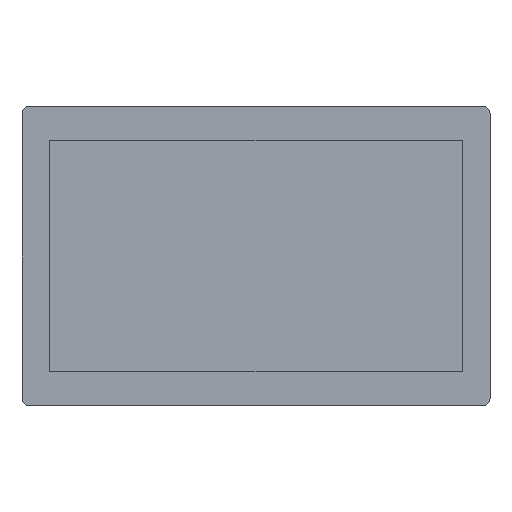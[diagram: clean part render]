
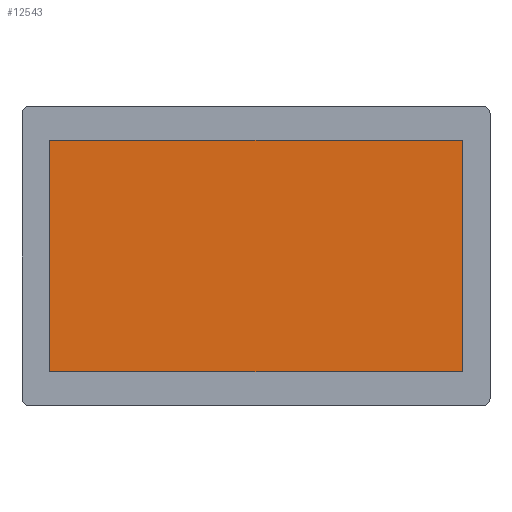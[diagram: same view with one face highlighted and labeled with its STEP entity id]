
A CAD part, top view. The second image highlights one B-rep face of the part: STEP entity #12543.
In plain terms, the highlighted planar face has unit normal (0, 0, 1).
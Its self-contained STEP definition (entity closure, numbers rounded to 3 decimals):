
#3878=DIRECTION('',(0.,-1.,0.));
#3879=VECTOR('',#3878,192.59);
#3880=CARTESIAN_POINT('',(169.38,103.74,2.75));
#3881=LINE('',#3880,#3879);
#3882=DIRECTION('',(-1.,0.,0.));
#3883=VECTOR('',#3882,343.16);
#3884=CARTESIAN_POINT('',(169.38,-88.85,2.75));
#3885=LINE('',#3884,#3883);
#3886=DIRECTION('',(0.,1.,0.));
#3887=VECTOR('',#3886,192.59);
#3888=CARTESIAN_POINT('',(-173.78,-88.85,2.75));
#3889=LINE('',#3888,#3887);
#3890=DIRECTION('',(1.,0.,0.));
#3891=VECTOR('',#3890,343.16);
#3892=CARTESIAN_POINT('',(-173.78,103.74,2.75));
#3893=LINE('',#3892,#3891);
#4320=CARTESIAN_POINT('',(169.38,-88.85,2.75));
#4321=VERTEX_POINT('',#4320);
#4322=CARTESIAN_POINT('',(169.38,103.74,2.75));
#4323=VERTEX_POINT('',#4322);
#4324=CARTESIAN_POINT('',(-173.78,-88.85,2.75));
#4325=VERTEX_POINT('',#4324);
#4326=CARTESIAN_POINT('',(-173.78,103.74,2.75));
#4327=VERTEX_POINT('',#4326);
#12532=CARTESIAN_POINT('',(178.73,-96.785,2.75));
#12533=DIRECTION('',(0.,0.,1.));
#12534=DIRECTION('',(-1.,0.,0.));
#12535=AXIS2_PLACEMENT_3D('',#12532,#12533,#12534);
#12536=PLANE('',#12535);
#12537=ORIENTED_EDGE('',*,*,#12456,.T.);
#12538=ORIENTED_EDGE('',*,*,#12478,.T.);
#12539=ORIENTED_EDGE('',*,*,#12499,.T.);
#12540=ORIENTED_EDGE('',*,*,#12519,.T.);
#12541=EDGE_LOOP('',(#12537,#12538,#12539,#12540));
#12542=FACE_OUTER_BOUND('',#12541,.F.);
#12456=EDGE_CURVE('',#4323,#4321,#3881,.T.);
#12478=EDGE_CURVE('',#4321,#4325,#3885,.T.);
#12499=EDGE_CURVE('',#4325,#4327,#3889,.T.);
#12519=EDGE_CURVE('',#4327,#4323,#3893,.T.);
#12543=ADVANCED_FACE('',(#12542),#12536,.T.);
